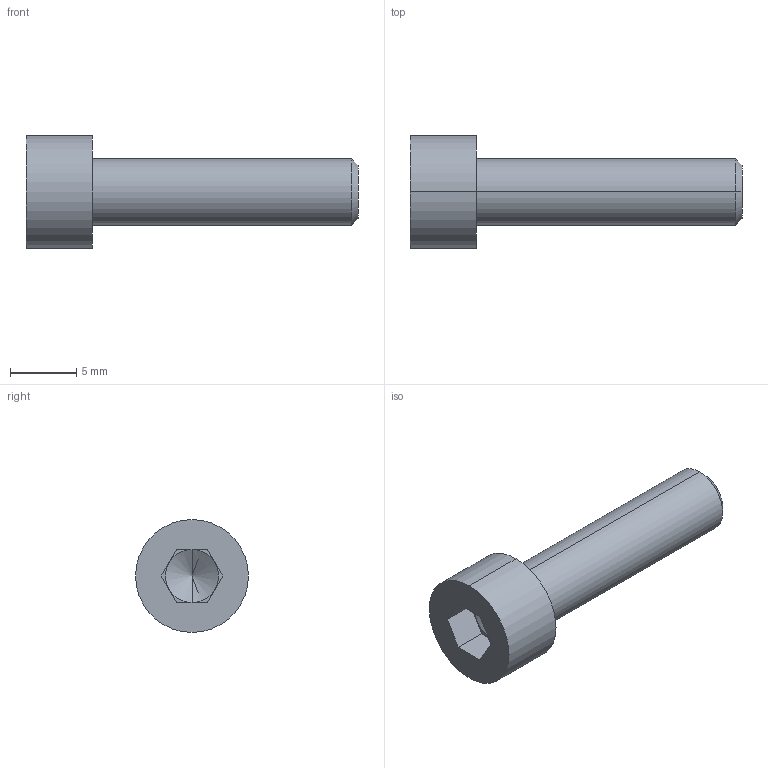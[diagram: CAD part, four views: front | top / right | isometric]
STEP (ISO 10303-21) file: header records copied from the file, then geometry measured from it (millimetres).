
FILE_DESCRIPTION (( 'STEP AP203' ), '1' );
FILE_NAME ('M5x20_DIN912.STEP', '2016-05-14T08:42:52', ( '' ), ( '' ), 'SwSTEP 2.0', 'SolidWorks 2014', '' );
FILE_SCHEMA (( 'CONFIG_CONTROL_DESIGN' ));
Length unit declared in the file: millimetre
Products named in the file (1): M5x20_DIN912
Bounding box: 25 x 8.5 x 8.5 mm (x, y, z)
Volume: 635.3 mm3; surface area: 592.9 mm2
Topology: 1 solids, 1 shells, 18 faces, 40 edges, 25 vertices
Faces by surface type: plane 10, cylinder 4, cone 4
Entity records: 563 total; most frequent: DIRECTION 88, CARTESIAN_POINT 82, ORIENTED_EDGE 76, EDGE_CURVE 38, AXIS2_PLACEMENT_3D 31, LINE 26, VECTOR 26, VERTEX_POINT 25
